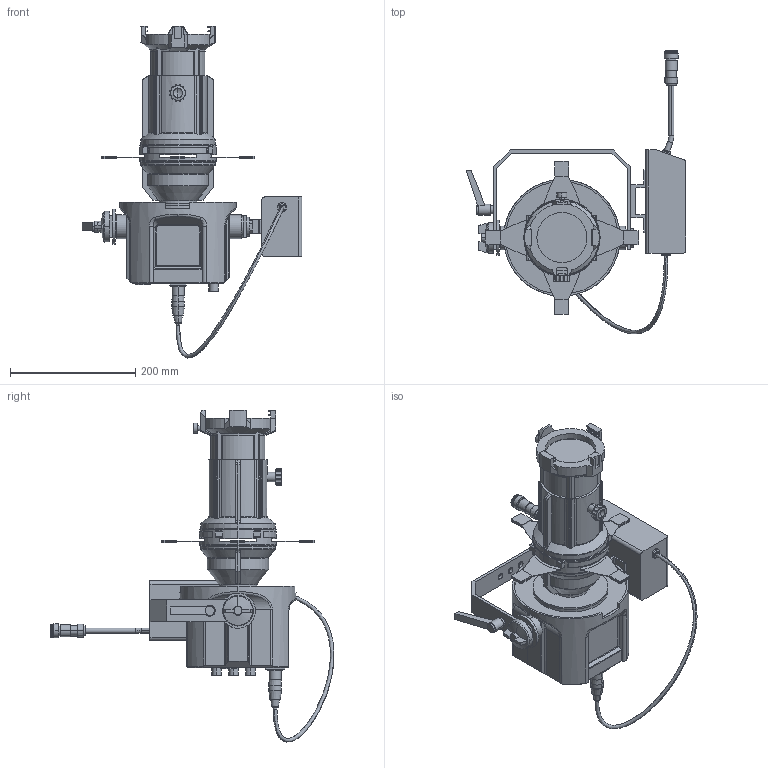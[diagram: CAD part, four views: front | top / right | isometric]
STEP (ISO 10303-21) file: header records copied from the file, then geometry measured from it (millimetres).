
FILE_DESCRIPTION (( 'STEP AP203' ), '1' );
FILE_NAME ('P5L(Clamp) Hanging.STEP', '2024-07-02T01:47:04', ( '' ), ( '' ), 'SwSTEP 2.0', 'SolidWorks 2014', '' );
FILE_SCHEMA (( 'CONFIG_CONTROL_DESIGN' ));
Length unit declared in the file: millimetre
Products named in the file (5): P5L - Light Body; P5L - Yoke; PSU 185W Clamp Mount_Hanging (for P5L); Fiilex Barrel Lens_19,36 deg (for Clamp); P5L(Clamp) Hanging
Assembly tree (4 placements, depth 2):
  P5L(Clamp) Hanging
    P5L - Yoke
    P5L - Light Body
    Fiilex Barrel Lens_19,36 deg (for Clamp)
    PSU 185W Clamp Mount_Hanging (for P5L)
Bounding box: 351 x 453.52 x 530.31 mm (x, y, z)
Volume: 6124261.5 mm3; surface area: 525642.2 mm2
Topology: 127 solids, 129 shells, 2986 faces, 7827 edges, 5137 vertices
Faces by surface type: plane 1706, bspline 699, cylinder 447, cone 86, torus 46, sphere 2
Entity records: 100581 total; most frequent: CARTESIAN_POINT 31152, ORIENTED_EDGE 15634, DIRECTION 11756, EDGE_CURVE 7817, LINE 5174, VECTOR 5174, VERTEX_POINT 5137, AXIS2_PLACEMENT_3D 3291
